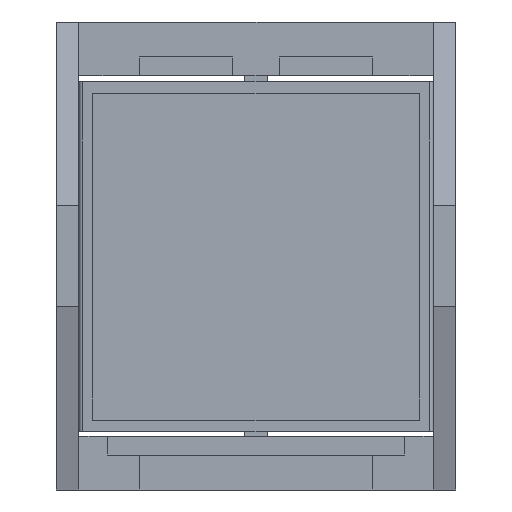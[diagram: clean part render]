
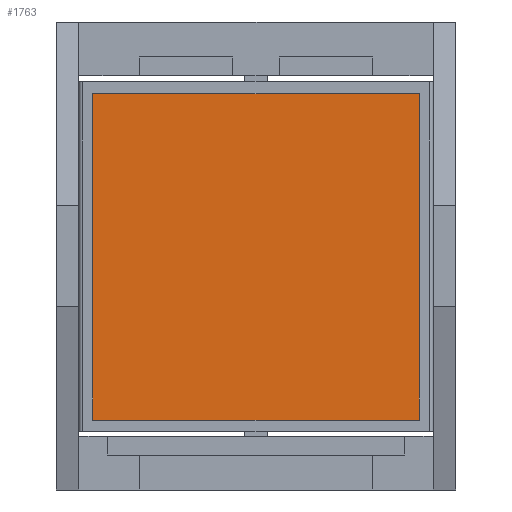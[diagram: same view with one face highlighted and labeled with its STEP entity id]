
A CAD part, front view. The second image highlights one B-rep face of the part: STEP entity #1763.
In plain terms, the highlighted planar face has unit normal (0, -1, 0).
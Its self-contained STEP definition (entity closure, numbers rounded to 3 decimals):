
#206 = CARTESIAN_POINT ( 'NONE',  ( 9.081, -3.447, -7.477 ) ) ;
#1243 = LINE ( 'NONE', #3378, #2068 ) ;
#1388 = VERTEX_POINT ( 'NONE', #3022 ) ;
#1452 = CARTESIAN_POINT ( 'NONE',  ( -11.919, -3.447, -7.477 ) ) ;
#1529 = DIRECTION ( 'NONE',  ( -1., 0., 0. ) ) ;
#1763 = ADVANCED_FACE ( 'NONE', ( #1911 ), #5837, .F. ) ;
#1868 = DIRECTION ( 'NONE',  ( 0., 0., -1. ) ) ;
#1911 = FACE_OUTER_BOUND ( 'NONE', #6289, .T. ) ;
#1973 = CARTESIAN_POINT ( 'NONE',  ( -11.919, -3.447, 13.523 ) ) ;
#2068 = VECTOR ( 'NONE', #4091, 1000. ) ;
#2553 = CARTESIAN_POINT ( 'NONE',  ( -11.919, -3.447, 13.523 ) ) ;
#2769 = VERTEX_POINT ( 'NONE', #5373 ) ;
#3022 = CARTESIAN_POINT ( 'NONE',  ( -11.919, -3.447, 13.523 ) ) ;
#3222 = VECTOR ( 'NONE', #1529, 1000. ) ;
#3378 = CARTESIAN_POINT ( 'NONE',  ( -11.919, -3.447, -7.477 ) ) ;
#3423 = EDGE_CURVE ( 'NONE', #5658, #4613, #3706, .T. ) ;
#3576 = ORIENTED_EDGE ( 'NONE', *, *, #6807, .F. ) ;
#3706 = LINE ( 'NONE', #206, #6809 ) ;
#3912 = LINE ( 'NONE', #2553, #4628 ) ;
#4091 = DIRECTION ( 'NONE',  ( 0., 0., 1. ) ) ;
#4349 = CARTESIAN_POINT ( 'NONE',  ( 9.081, -3.447, -7.477 ) ) ;
#4613 = VERTEX_POINT ( 'NONE', #4349 ) ;
#4628 = VECTOR ( 'NONE', #7024, 1000. ) ;
#4802 = ORIENTED_EDGE ( 'NONE', *, *, #5853, .F. ) ;
#4871 = ORIENTED_EDGE ( 'NONE', *, *, #7220, .F. ) ;
#5223 = ORIENTED_EDGE ( 'NONE', *, *, #3423, .F. ) ;
#5373 = CARTESIAN_POINT ( 'NONE',  ( -11.919, -3.447, -7.477 ) ) ;
#5658 = VERTEX_POINT ( 'NONE', #5938 ) ;
#5803 = DIRECTION ( 'NONE',  ( 0., 1., 0. ) ) ;
#5837 = PLANE ( 'NONE',  #6413 ) ;
#5853 = EDGE_CURVE ( 'NONE', #2769, #1388, #1243, .T. ) ;
#5863 = LINE ( 'NONE', #1452, #3222 ) ;
#5938 = CARTESIAN_POINT ( 'NONE',  ( 9.081, -3.447, 13.523 ) ) ;
#6289 = EDGE_LOOP ( 'NONE', ( #4802, #3576, #5223, #4871 ) ) ;
#6413 = AXIS2_PLACEMENT_3D ( 'NONE', #1973, #5803, #7080 ) ;
#6807 = EDGE_CURVE ( 'NONE', #4613, #2769, #5863, .T. ) ;
#6809 = VECTOR ( 'NONE', #1868, 1000. ) ;
#7024 = DIRECTION ( 'NONE',  ( 1., 0., 0. ) ) ;
#7080 = DIRECTION ( 'NONE',  ( 0., 0., 1. ) ) ;
#7220 = EDGE_CURVE ( 'NONE', #1388, #5658, #3912, .T. ) ;
